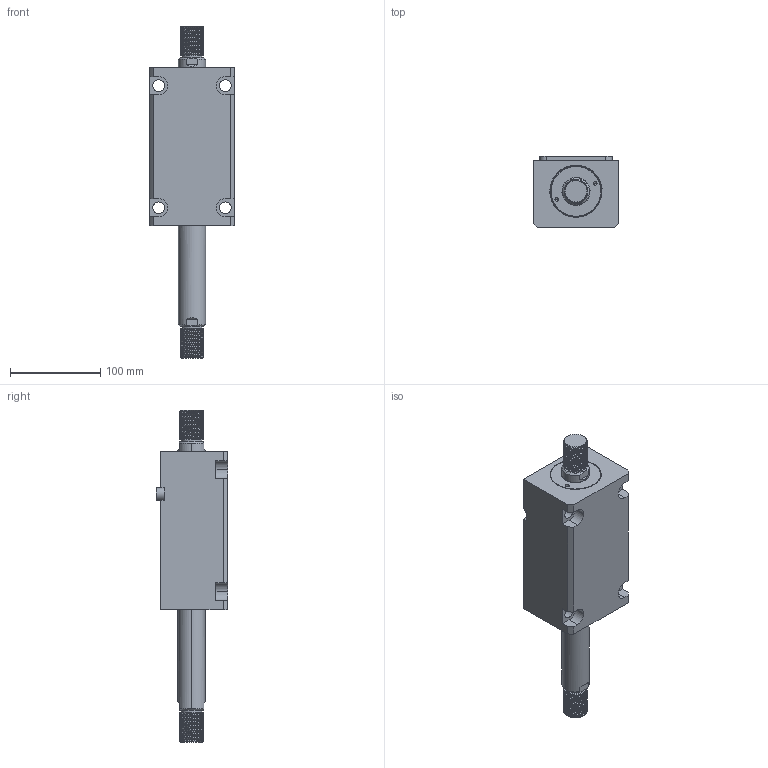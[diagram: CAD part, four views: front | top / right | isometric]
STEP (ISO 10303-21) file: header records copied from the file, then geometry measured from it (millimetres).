
FILE_DESCRIPTION (( 'STEP AP203' ), '1' );
FILE_NAME ('CHTB-LWM50-100W.STEP', '2018-05-22T06:11:45', ( '' ), ( '' ), 'SwSTEP 2.0', 'SolidWorks 2015', '' );
FILE_SCHEMA (( 'CONFIG_CONTROL_DESIGN' ));
Length unit declared in the file: millimetre
Products named in the file (4): 活塞杆LWM50-100W; 掛极LWM50-100W; CHTM-SDMA50QG; CHTB-LWM50-100W
Assembly tree (3 placements, depth 2):
  CHTB-LWM50-100W
    掛极LWM50-100W
    活塞杆LWM50-100W
    CHTM-SDMA50QG
Bounding box: 94 x 79 x 367 mm (x, y, z)
Volume: 1157478.9 mm3; surface area: 167435.3 mm2
Topology: 3 solids, 3 shells, 302 faces, 837 edges, 557 vertices
Faces by surface type: cylinder 188, plane 62, cone 18, bspline 18, torus 16
Entity records: 19248 total; most frequent: CARTESIAN_POINT 11864, ORIENTED_EDGE 1666, DIRECTION 1265, EDGE_CURVE 833, VERTEX_POINT 557, AXIS2_PLACEMENT_3D 483, EDGE_LOOP 338, ADVANCED_FACE 302
